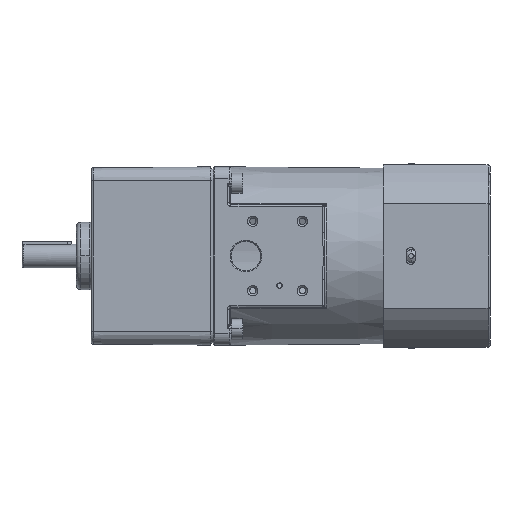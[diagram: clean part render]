
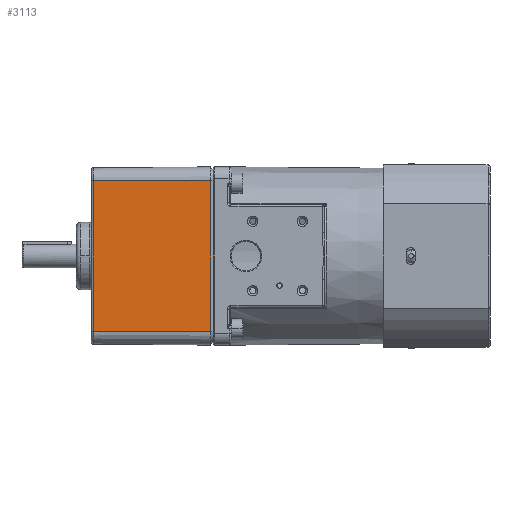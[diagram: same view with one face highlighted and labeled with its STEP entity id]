
A CAD part, left-side view. The second image highlights one B-rep face of the part: STEP entity #3113.
In plain terms, the highlighted planar face has unit normal (-1, 0.009, 0).
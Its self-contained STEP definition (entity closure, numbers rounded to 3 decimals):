
#2662 = VERTEX_POINT ( 'NONE', #24748 ) ;
#3113 = ADVANCED_FACE ( 'NONE', ( #49962 ), #31612, .T. ) ;
#4265 = CARTESIAN_POINT ( 'NONE',  ( -45., 8., 38. ) ) ;
#6695 = DIRECTION ( 'NONE',  ( 0.009, 1., 0. ) ) ;
#7128 = EDGE_CURVE ( 'NONE', #41608, #2662, #31196, .T. ) ;
#8390 = EDGE_CURVE ( 'NONE', #27020, #41689, #29212, .T. ) ;
#8748 = ORIENTED_EDGE ( 'NONE', *, *, #7128, .F. ) ;
#8803 = DIRECTION ( 'NONE',  ( 0.009, 1., 0. ) ) ;
#13068 = EDGE_CURVE ( 'NONE', #41608, #27020, #33990, .T. ) ;
#13595 = AXIS2_PLACEMENT_3D ( 'NONE', #16217, #31784, #48364 ) ;
#14899 = ORIENTED_EDGE ( 'NONE', *, *, #13068, .T. ) ;
#15366 = VECTOR ( 'NONE', #8803, 1000. ) ;
#16013 = DIRECTION ( 'NONE',  ( 0., 0., -1. ) ) ;
#16217 = CARTESIAN_POINT ( 'NONE',  ( -45., 8., 38. ) ) ;
#16542 = CARTESIAN_POINT ( 'NONE',  ( -4399.777, -499000., -38. ) ) ;
#24748 = CARTESIAN_POINT ( 'NONE',  ( -44.989, 9.3, -38. ) ) ;
#24929 = ORIENTED_EDGE ( 'NONE', *, *, #8390, .T. ) ;
#26970 = CARTESIAN_POINT ( 'NONE',  ( -44.989, 9.3, 0. ) ) ;
#27020 = VERTEX_POINT ( 'NONE', #29650 ) ;
#29212 = LINE ( 'NONE', #40067, #38678 ) ;
#29650 = CARTESIAN_POINT ( 'NONE',  ( -44.472, 68.509, 38. ) ) ;
#31196 = LINE ( 'NONE', #26970, #50125 ) ;
#31232 = DIRECTION ( 'NONE',  ( 0., 0., -1. ) ) ;
#31327 = CARTESIAN_POINT ( 'NONE',  ( -44.989, 9.3, 38. ) ) ;
#31612 = PLANE ( 'NONE',  #13595 ) ;
#31784 = DIRECTION ( 'NONE',  ( -1., 0.009, 0. ) ) ;
#33990 = LINE ( 'NONE', #4265, #40949 ) ;
#34285 = CARTESIAN_POINT ( 'NONE',  ( -44.472, 68.509, -38. ) ) ;
#35522 = EDGE_LOOP ( 'NONE', ( #8748, #14899, #24929, #41743 ) ) ;
#38678 = VECTOR ( 'NONE', #16013, 1000. ) ;
#40067 = CARTESIAN_POINT ( 'NONE',  ( -44.472, 68.509, 38. ) ) ;
#40712 = LINE ( 'NONE', #16542, #15366 ) ;
#40949 = VECTOR ( 'NONE', #6695, 1000. ) ;
#41608 = VERTEX_POINT ( 'NONE', #31327 ) ;
#41689 = VERTEX_POINT ( 'NONE', #34285 ) ;
#41743 = ORIENTED_EDGE ( 'NONE', *, *, #48192, .F. ) ;
#48192 = EDGE_CURVE ( 'NONE', #2662, #41689, #40712, .T. ) ;
#48364 = DIRECTION ( 'NONE',  ( -0.009, -1., 0. ) ) ;
#49962 = FACE_OUTER_BOUND ( 'NONE', #35522, .T. ) ;
#50125 = VECTOR ( 'NONE', #31232, 1000. ) ;
